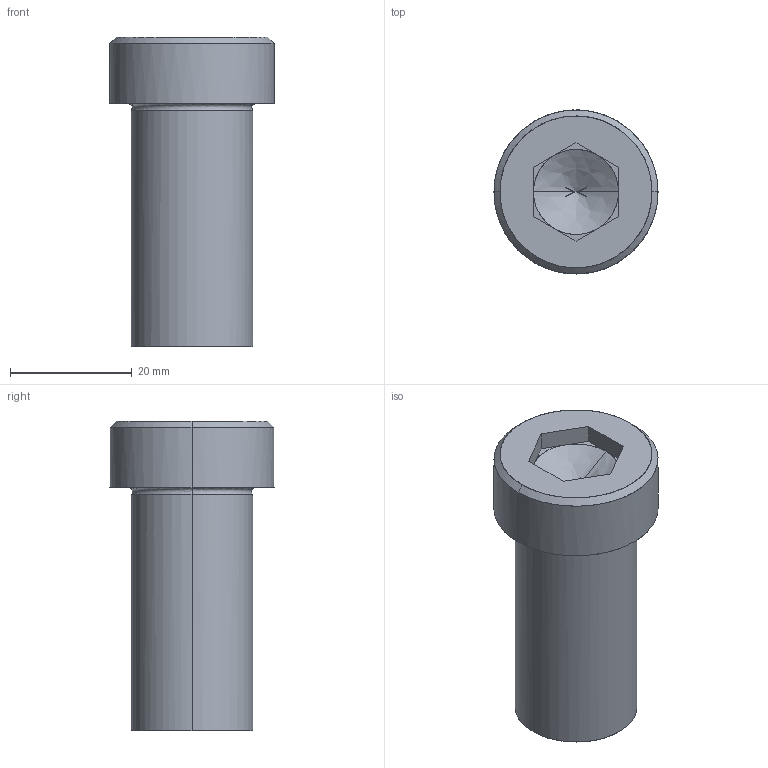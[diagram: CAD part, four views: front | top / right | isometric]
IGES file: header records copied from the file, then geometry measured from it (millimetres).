
Global section: file name: E:\UnigraphicsGraphicData\MISUMI_PRESS-PARTS\IGES\3d_sbtcn20-40_05134_r00.igs; native system: NX V5.0; preprocessor: UGS NX IGES V5.0; author: MISUMI; date: 20110105.162457; units: millimetre
Bounding box: 27 x 27 x 51 mm (x, y, z)
Surface area: 5542.3 mm2 (no closed solid volume)
Topology: 0 solids, 0 shells, 34 faces, 194 edges, 190 vertices
Faces by surface type: bspline 34
